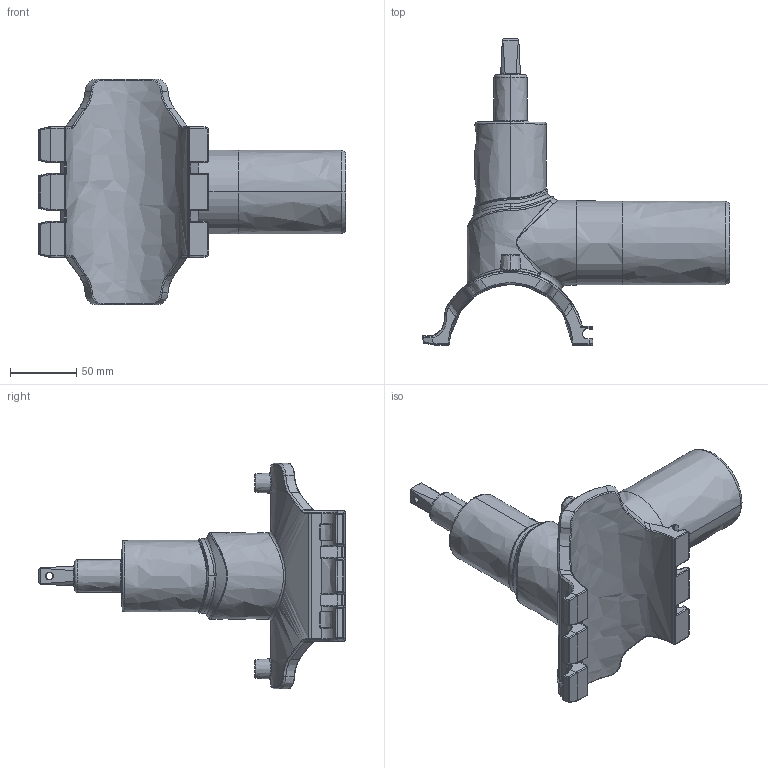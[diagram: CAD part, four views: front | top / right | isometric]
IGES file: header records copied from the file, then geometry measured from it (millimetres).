
Start section:  PTC IGES file: dav2_d90_63_01.igs
Global section: file name: dav2_d90_63_01.igs; native system: Creo Parametric by PTC Inc.; preprocessor: 2019030; author: mikulicp; organization: Unknown; date: 20210622.135915; units: millimetre
Bounding box: 231.41 x 230.7 x 170 mm (x, y, z)
Surface area: 121975.7 mm2 (no closed solid volume)
Topology: 0 solids, 0 shells, 579 faces, 2810 edges, 2804 vertices
Faces by surface type: bspline 579
